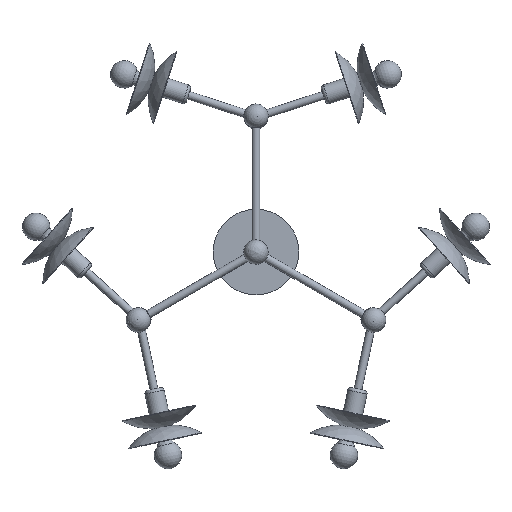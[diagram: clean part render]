
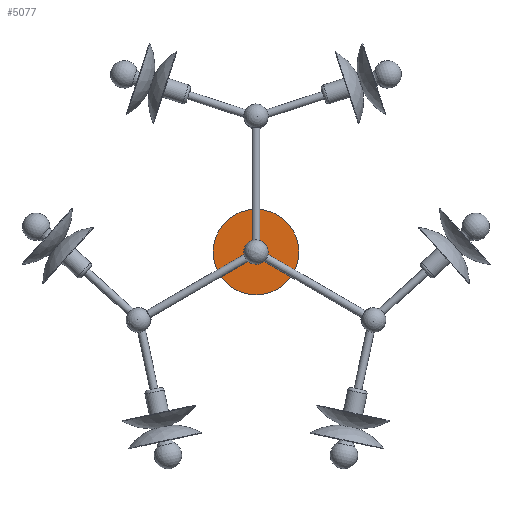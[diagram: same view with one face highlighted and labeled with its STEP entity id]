
A CAD part, front view. The second image highlights one B-rep face of the part: STEP entity #5077.
In plain terms, the highlighted planar face has unit normal (0, -1, 0).
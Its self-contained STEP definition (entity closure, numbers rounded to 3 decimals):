
#187=FACE_BOUND('',#1150,.T.);
#674=PLANE('',#5464);
#797=FACE_OUTER_BOUND('',#1149,.T.);
#1149=EDGE_LOOP('',(#3584));
#1150=EDGE_LOOP('',(#3585));
#1986=CIRCLE('',#5465,70.);
#1987=CIRCLE('',#5466,6.5);
#2438=VERTEX_POINT('',#8045);
#2439=VERTEX_POINT('',#8047);
#2899=EDGE_CURVE('',#2438,#2438,#1986,.T.);
#2900=EDGE_CURVE('',#2439,#2439,#1987,.T.);
#3584=ORIENTED_EDGE('',*,*,#2899,.F.);
#3585=ORIENTED_EDGE('',*,*,#2900,.T.);
#5077=ADVANCED_FACE('',(#797,#187),#674,.F.);
#5464=AXIS2_PLACEMENT_3D('',#8044,#6269,#6270);
#5465=AXIS2_PLACEMENT_3D('',#8046,#6271,#6272);
#5466=AXIS2_PLACEMENT_3D('',#8048,#6273,#6274);
#6269=DIRECTION('center_axis',(0.,1.,0.));
#6270=DIRECTION('ref_axis',(0.,0.,
-1.));
#6271=DIRECTION('center_axis',(0.,1.,0.));
#6272=DIRECTION('ref_axis',(0.,0.,
-1.));
#6273=DIRECTION('center_axis',(0.,1.,0.));
#6274=DIRECTION('ref_axis',(-0.999,0.,-0.05));
#8044=CARTESIAN_POINT('Origin',(0.,-7.599,0.));
#8045=CARTESIAN_POINT('',(0.,-7.599,70.));
#8046=CARTESIAN_POINT('Origin',(0.,-7.599,0.));
#8047=CARTESIAN_POINT('',(6.492,-7.599,0.323));
#8048=CARTESIAN_POINT('Origin',(0.,-7.599,0.));
